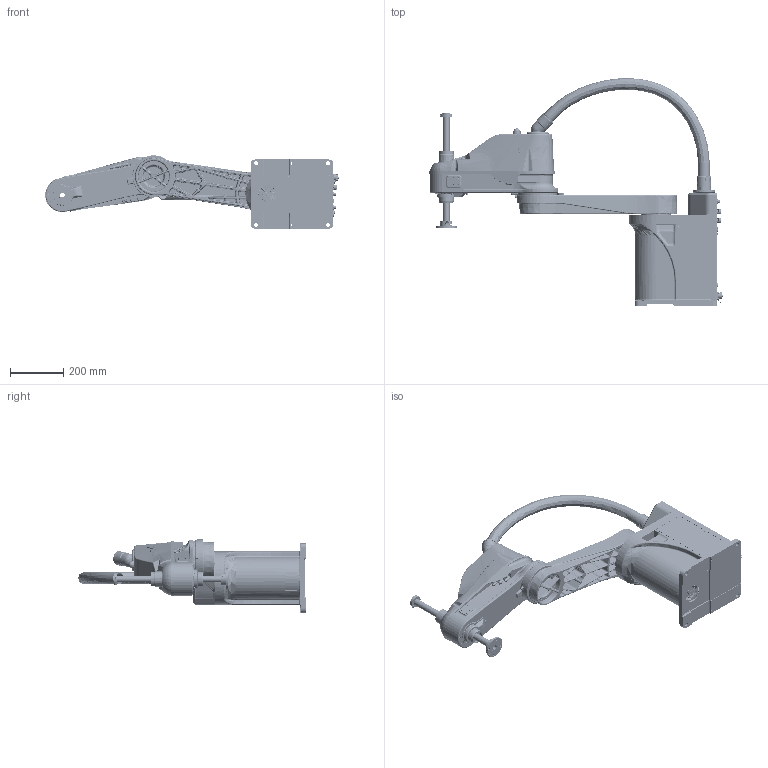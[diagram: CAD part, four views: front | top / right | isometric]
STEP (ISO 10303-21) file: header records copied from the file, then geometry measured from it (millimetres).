
FILE_DESCRIPTION (( 'STEP AP203' ), '1' );
FILE_NAME ('AH10-0800-0204-2000_V1.1.0 .STEP', '2020-09-25T06:30:24', ( '' ), ( '' ), 'SwSTEP 2.0', 'SolidWorks 2017', '' );
FILE_SCHEMA (( 'CONFIG_CONTROL_DESIGN' ));
Length unit declared in the file: millimetre
Products named in the file (6): AH10-0800-0204-2000_V1.1.0 ; AH10-0800-0204-4000-T1-A; AH10-0800-0204-4000-T3-A; AH10-0800-0204-4000-T2-A; AH10-0800-0204-4000-T4-A; AH10-0800-0204-2000-T5-A
Assembly tree (5 placements, depth 2):
  AH10-0800-0204-2000_V1.1.0 
    AH10-0800-0204-4000-T1-A
    AH10-0800-0204-4000-T3-A
    AH10-0800-0204-4000-T2-A
    AH10-0800-0204-4000-T4-A
    AH10-0800-0204-2000-T5-A
Bounding box: 1102.91 x 854.49 x 275.78 mm (x, y, z)
Volume: 5162042.8 mm3; surface area: 3397863.5 mm2
Topology: 92 solids, 494 shells, 22936 faces, 63433 edges, 40834 vertices
Faces by surface type: plane 9843, cylinder 6760, bspline 3286, cone 1987, torus 617, sphere 443
Entity records: 932781 total; most frequent: CARTESIAN_POINT 380468, ORIENTED_EDGE 120725, DIRECTION 101889, EDGE_CURVE 62634, VERTEX_POINT 40812, AXIS2_PLACEMENT_3D 34812, LINE 32265, VECTOR 32265
